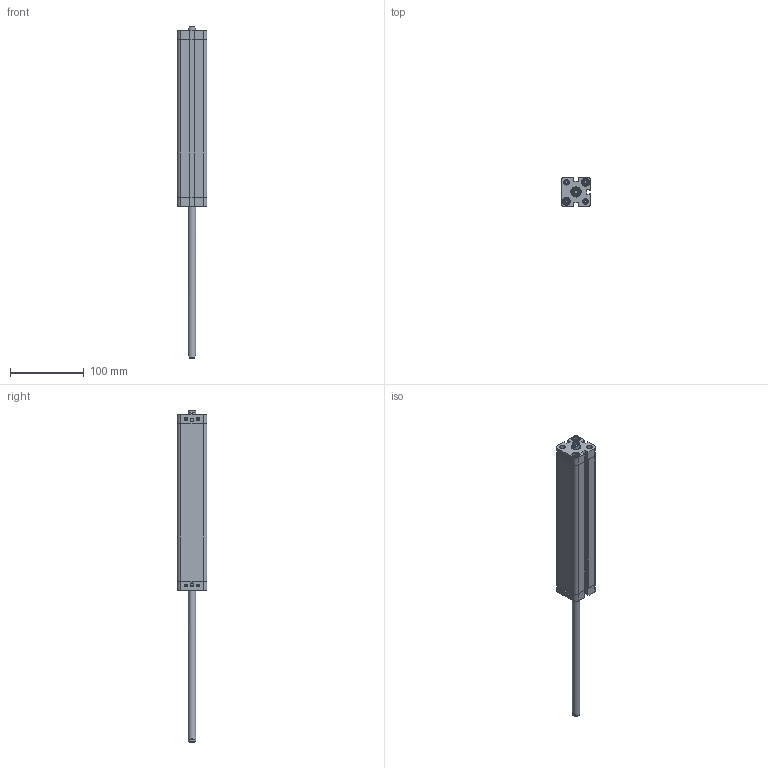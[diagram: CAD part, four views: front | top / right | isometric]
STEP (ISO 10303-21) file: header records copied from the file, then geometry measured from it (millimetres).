
FILE_DESCRIPTION(/* description */ ('Unknown'),/* implementation_level */ '2;1');
FILE_NAME(/* name */ 'ZBN 25_200',/* time_stamp */ '2025-01-28T07:34:28+01:00',/* author */ ('Unknown'),/* organization */ ('HAFNER Pneumatika Kft'),/* preprocessor_version */ 'ST-DEVELOPER v16.7',/* originating_system */ 'Solid Edge',/* authorisation */ 'Unknown');
FILE_SCHEMA (('AUTOMOTIVE_DESIGN {1 0 10303 214 3 1 1}'));
Length unit declared in the file: millimetre
Products named in the file (5): ZBN 25_200; Profilrohr; Kolbenstange; Kit_2; Kit_1
Assembly tree (5 placements, depth 2):
  ZBN 25_200
    Profilrohr
    Kolbenstange  x2
    Kit_2
    Kit_1
Bounding box: 40.3 x 40.3 x 451 mm (x, y, z)
Volume: 283587.5 mm3; surface area: 92925.1 mm2
Topology: 5 solids, 11 shells, 619 faces, 1621 edges, 1068 vertices
Faces by surface type: plane 310, cylinder 149, bspline 84, cone 56, torus 20
Full cylindrical faces by diameter (mm): 4.134 x10, 4.917 x4, 7.5 x4, 8 x8, 10 x2, 10.48 x2, 10.9 x4, 11.1 x4, 11.4 x2, 12 x2, 13.84 x2, 14 x2, 25 x3
Entity records: 22219 total; most frequent: CARTESIAN_POINT 4202, ORIENTED_EDGE 2902, DIRECTION 2698, EDGE_CURVE 1451, VERTEX_POINT 1015, AXIS2_PLACEMENT_3D 909, LINE 880, VECTOR 880
